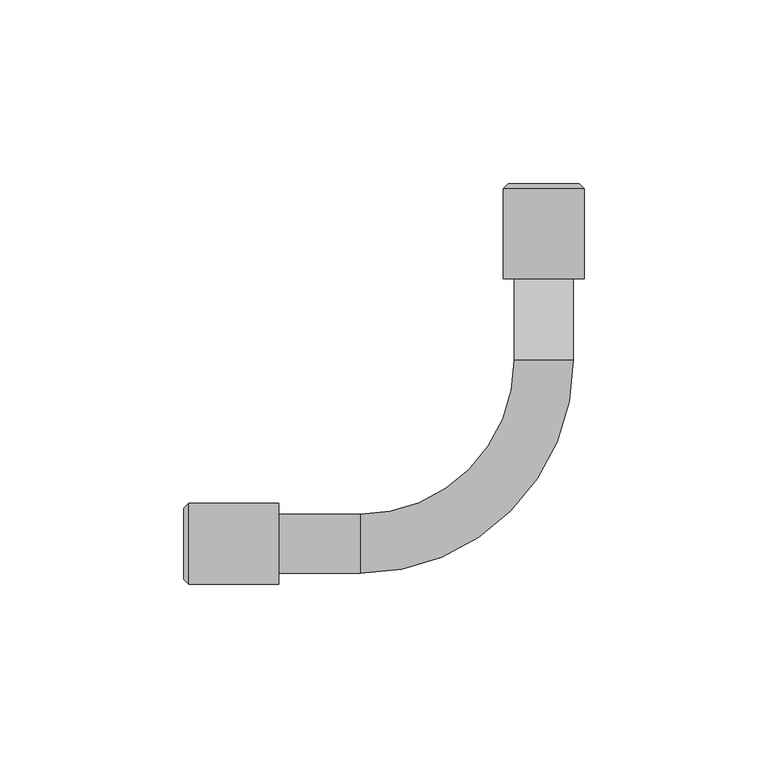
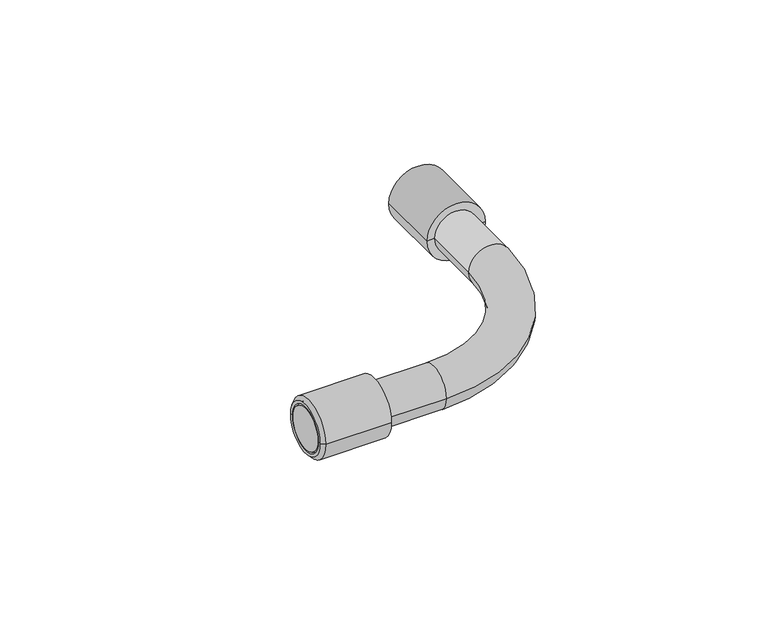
"""IFC4 building model written with IfcOpenShell, lengths in millimetres: cable carrier fitting geometry, ADSK_Поворот : Металл."""

from ifc_helpers import new_model, si_unit, point, frame, origin, place, context, project, spatial, polyline, circle_curve, ellipse_curve, trimmed, source, transform, mapped, element, save
from ifc_brep_helpers import plane_surface, cylinder_surface, revolved_surface, advanced_brep


def cable_carrier_fitting_90a67864(model_context):
    return source(origin(), model_context, "Body", "AdvancedBrep", [
        advanced_brep(
        [(-98.0, 8.0, 0.0), (-98.0, -8.0, 0.0), (-50.0, -8.0, 0.0), (-50.0, 8.0, 0.0), (-72.1831816, 8.0, 0.0), (-72.1831816, -8.0, 0.0), (8.0, 50.0, 0.0), (-8.0, 50.0, 0.0), (8.0, 98.0, 0.0), (-8.0, 98.0, 0.0), (8.0, 72.1831816, 0.0), (-8.0, 72.1831816, 0.0), (-96.1402564, 8.6768913, 0.0), (-96.1402564, -8.6768913, 0.0), (-72.1831816, -11.0, 0.0), (-72.1831816, 11.0, 0.0), (-96.6698709, -11.0, 0.0), (-96.6698709, 11.0, 0.0), (-98.0, -9.6698709, 0.0), (-98.0, 9.6698709, 0.0), (-98.0, -8.6768913, 0.0), (-98.0, 8.6768913, 0.0), (-11.0, 96.6698709, 0.0), (11.0, 96.6698709, 0.0), (11.0, 72.1831816, 0.0), (-11.0, 72.1831816, 0.0), (-9.6698709, 98.0, 0.0), (9.6698709, 98.0, 0.0), (-8.6768913, 98.0, 0.0), (8.6768913, 98.0, 0.0), (-8.6768913, 96.1402564, 0.0), (8.6768913, 96.1402564, 0.0)],
        [
            (0, 1, circle_curve(frame((-98.0, 0.0, 0.0), z_axis=(-1.0, 0.0, 0.0), x_axis=(0.0, 1.0, 0.0)), 8.0)),
            (1, 0, circle_curve(frame((-98.0, 0.0, 0.0), z_axis=(-1.0, 0.0, 0.0), x_axis=(0.0, 1.0, 0.0)), 8.0)),
            (2, 3, circle_curve(frame((-50.0, 0.0, 0.0), z_axis=(-1.0, 0.0, 0.0), x_axis=(0.0, 1.0, 0.0)), 8.0)),
            (3, 4),
            (4, 5, circle_curve(frame((-72.1831816, 0.0, 0.0), z_axis=(1.0, 0.0, 0.0), x_axis=(0.0, 1.0, 0.0)), 8.0)),
            (5, 2),
            (3, 2, circle_curve(frame((-50.0, 0.0, 0.0), z_axis=(-1.0, 0.0, 0.0), x_axis=(0.0, 1.0, 0.0)), 8.0)),
            (5, 4, circle_curve(frame((-72.1831816, 0.0, 0.0), z_axis=(1.0, 0.0, 0.0), x_axis=(0.0, 1.0, 0.0)), 8.0)),
            (2, 6, circle_curve(frame((-50.0, 50.0, 0.0), z_axis=(0.0, 0.0, 1.0), x_axis=(0.0, -1.0, 0.0)), 58.0)),
            (6, 7, circle_curve(frame((0.0, 50.0, 0.0), z_axis=(0.0, -1.0, 0.0), x_axis=(-1.0, 0.0, 0.0)), 8.0)),
            (7, 3, circle_curve(frame((-50.0, 50.0, 0.0), z_axis=(0.0, 0.0, -1.0), x_axis=(0.0, -1.0, 0.0)), 42.0)),
            (7, 6, circle_curve(frame((0.0, 50.0, 0.0), z_axis=(0.0, -1.0, 0.0), x_axis=(-1.0, 0.0, 0.0)), 8.0)),
            (8, 9, circle_curve(frame((0.0, 98.0, 0.0), z_axis=(0.0, 1.0, 0.0), x_axis=(1.0, 0.0, 0.0)), 8.0)),
            (9, 8, circle_curve(frame((0.0, 98.0, 0.0), z_axis=(0.0, 1.0, 0.0), x_axis=(1.0, 0.0, 0.0)), 8.0)),
            (6, 10),
            (10, 11, circle_curve(frame((0.0, 72.1831816, 0.0), z_axis=(0.0, -1.0, 0.0), x_axis=(-1.0, 0.0, 0.0)), 8.0)),
            (11, 7),
            (11, 10, circle_curve(frame((0.0, 72.1831816, 0.0), z_axis=(0.0, -1.0, 0.0), x_axis=(-1.0, 0.0, 0.0)), 8.0)),
            (0, 12),
            (12, 13, circle_curve(frame((-96.1402564, 0.0, 0.0), z_axis=(-1.0, 0.0, 0.0), x_axis=(0.0, 1.0, 0.0)), 8.6768913)),
            (13, 1),
            (13, 12, circle_curve(frame((-96.1402564, 0.0, 0.0), z_axis=(-1.0, 0.0, 0.0), x_axis=(0.0, 1.0, 0.0)), 8.6768913)),
            (14, 15, circle_curve(frame((-72.1831816, 0.0, 0.0), z_axis=(1.0, 0.0, 0.0), x_axis=(0.0, 1.0, 0.0)), 11.0)),
            (15, 4),
            (5, 14),
            (15, 14, circle_curve(frame((-72.1831816, 0.0, 0.0), z_axis=(1.0, 0.0, 0.0), x_axis=(0.0, 1.0, 0.0)), 11.0)),
            (14, 16),
            (16, 17, circle_curve(frame((-96.6698709, 0.0, 0.0), z_axis=(1.0, 0.0, 0.0), x_axis=(0.0, 1.0, 0.0)), 11.0)),
            (17, 15),
            (17, 16, circle_curve(frame((-96.6698709, 0.0, 0.0), z_axis=(1.0, 0.0, 0.0), x_axis=(0.0, 1.0, 0.0)), 11.0)),
            (16, 18),
            (18, 19, circle_curve(frame((-98.0, 0.0, 0.0), z_axis=(1.0, 0.0, 0.0), x_axis=(0.0, 1.0, 0.0)), 9.6698709)),
            (19, 17),
            (19, 18, circle_curve(frame((-98.0, 0.0, 0.0), z_axis=(1.0, 0.0, 0.0), x_axis=(0.0, 1.0, 0.0)), 9.6698709)),
            (18, 20),
            (20, 21, circle_curve(frame((-98.0, 0.0, 0.0), z_axis=(1.0, 0.0, 0.0), x_axis=(0.0, 1.0, 0.0)), 8.6768913)),
            (21, 19),
            (21, 20, circle_curve(frame((-98.0, 0.0, 0.0), z_axis=(1.0, 0.0, 0.0), x_axis=(0.0, 1.0, 0.0)), 8.6768913)),
            (12, 21),
            (20, 13),
            (22, 23, circle_curve(frame((0.0, 96.6698709, 0.0), z_axis=(0.0, -1.0, 0.0), x_axis=(1.0, 0.0, 0.0)), 11.0)),
            (23, 24),
            (24, 25, circle_curve(frame((0.0, 72.1831816, 0.0), z_axis=(0.0, 1.0, 0.0), x_axis=(1.0, 0.0, 0.0)), 11.0)),
            (25, 22),
            (23, 22, circle_curve(frame((0.0, 96.6698709, 0.0), z_axis=(0.0, -1.0, 0.0), x_axis=(1.0, 0.0, 0.0)), 11.0)),
            (25, 24, circle_curve(frame((0.0, 72.1831816, 0.0), z_axis=(0.0, 1.0, 0.0), x_axis=(1.0, 0.0, 0.0)), 11.0)),
            (22, 26),
            (26, 27, circle_curve(frame((0.0, 98.0, 0.0), z_axis=(0.0, -1.0, 0.0), x_axis=(1.0, 0.0, 0.0)), 9.6698709)),
            (27, 23),
            (27, 26, circle_curve(frame((0.0, 98.0, 0.0), z_axis=(0.0, -1.0, 0.0), x_axis=(1.0, 0.0, 0.0)), 9.6698709)),
            (26, 28),
            (28, 29, circle_curve(frame((0.0, 98.0, 0.0), z_axis=(0.0, -1.0, 0.0), x_axis=(1.0, 0.0, 0.0)), 8.6768913)),
            (29, 27),
            (29, 28, circle_curve(frame((0.0, 98.0, 0.0), z_axis=(0.0, -1.0, 0.0), x_axis=(1.0, 0.0, 0.0)), 8.6768913)),
            (28, 30),
            (30, 31, circle_curve(frame((0.0, 96.1402564, 0.0), z_axis=(0.0, -1.0, 0.0), x_axis=(1.0, 0.0, 0.0)), 8.6768913)),
            (31, 29),
            (31, 30, circle_curve(frame((0.0, 96.1402564, 0.0), z_axis=(0.0, -1.0, 0.0), x_axis=(1.0, 0.0, 0.0)), 8.6768913)),
            (30, 9),
            (8, 31),
            (24, 10),
            (11, 25),
        ],
        [
            plane_surface(frame((-98.0, 0.0, 0.0), z_axis=(-1.0, 0.0, 0.0), x_axis=(0.0, 0.0, 1.0))),
            cylinder_surface(frame((-98.0, 0.0, 0.0), z_axis=(-1.0, 0.0, 0.0), x_axis=(0.0, 1.0, 0.0)), 8.0),
            revolved_surface(trimmed(ellipse_curve(frame((-50.0, 0.0, 0.0), z_axis=(-1.0, 0.0, 0.0), x_axis=(0.0, 1.0, 0.0)), 8.0, 8.0), [point((-50.0, -8.0, 0.0))], [point((-50.0, 8.0, 0.0))], True, "CARTESIAN"), (-50.0, 50.0, 0.0), (0.0, 0.0, 1.0)),
            revolved_surface(trimmed(ellipse_curve(frame((-50.0, 0.0, 0.0), z_axis=(-1.0, 0.0, 0.0), x_axis=(0.0, 1.0, 0.0)), 8.0, 8.0), [point((-50.0, 8.0, 0.0))], [point((-50.0, -8.0, 0.0))], True, "CARTESIAN"), (-50.0, 50.0, 0.0), (0.0, 0.0, 1.0)),
            plane_surface(frame((0.0, 98.0, 0.0), z_axis=(0.0, 1.0, 0.0), x_axis=(0.0, 0.0, 1.0))),
            cylinder_surface(frame((0.0, 50.0, 0.0), z_axis=(0.0, -1.0, 0.0), x_axis=(-1.0, 0.0, 0.0)), 8.0),
            revolved_surface(polyline([(-96.1402564, 8.6768913, 0.0), (-98.0, 8.0, 0.0)]), (-98.0, 0.0, 0.0), (-1.0, 0.0, 0.0)),
            plane_surface(frame((-72.1831816, 0.0, 0.0), z_axis=(1.0, 0.0, 0.0), x_axis=(0.0, 1.0, 0.0))),
            cylinder_surface(frame((-98.0, 0.0, 0.0), z_axis=(-1.0, 0.0, 0.0), x_axis=(0.0, 1.0, 0.0)), 11.0),
            revolved_surface(polyline([(-96.6698709, 11.0, 0.0), (-98.0, 9.6698709, 0.0)]), (-98.0, 0.0, 0.0), (-1.0, 0.0, 0.0)),
            plane_surface(frame((-98.0, 0.0, 0.0), z_axis=(-1.0, 0.0, 0.0), x_axis=(0.0, 1.0, 0.0))),
            revolved_surface(polyline([(-98.0, 8.6768913, 0.0), (-96.1402564, 8.6768913, 0.0)]), (-98.0, 0.0, 0.0), (-1.0, 0.0, 0.0)),
            cylinder_surface(frame((0.0, 117.0, 0.0), z_axis=(0.0, 1.0, 0.0), x_axis=(1.0, 0.0, 0.0)), 11.0),
            revolved_surface(polyline([(11.0, 96.6698709, 0.0), (9.6698709, 98.0, 0.0)]), (0.0, 117.0, 0.0), (0.0, 1.0, 0.0)),
            plane_surface(frame((0.0, 98.0, 0.0), z_axis=(0.0, 1.0, 0.0), x_axis=(1.0, 0.0, 0.0))),
            revolved_surface(polyline([(8.6768913, 98.0, 0.0), (8.6768913, 96.1402564, 0.0)]), (0.0, 117.0, 0.0), (0.0, 1.0, 0.0)),
            revolved_surface(polyline([(8.6768913, 96.1402564, 0.0), (8.0, 98.0, 0.0)]), (0.0, 117.0, 0.0), (0.0, 1.0, 0.0)),
            plane_surface(frame((0.0, 72.1831816, 0.0), z_axis=(0.0, -1.0, 0.0), x_axis=(1.0, 0.0, 0.0))),
        ],
        [
            (0, [[1, 2]]),
            (1, [[3, 4, 5, 6]]),
            (1, [[7, -6, 8, -4]]),
            (2, [[-3, 9, 10, 11]]),
            (3, [[-7, -11, 12, -9]]),
            (4, [[13, 14]]),
            (5, [[-10, 15, 16, 17]]),
            (5, [[-12, -17, 18, -15]]),
            (6, [[19, 20, 21, -1]]),
            (6, [[-19, -2, -21, 22]]),
            (7, [[23, 24, -8, 25]]),
            (7, [[-24, 26, -25, -5]]),
            (8, [[-23, 27, 28, 29]]),
            (8, [[-26, -29, 30, -27]]),
            (9, [[-28, 31, 32, 33]]),
            (9, [[-30, -33, 34, -31]]),
            (10, [[-32, 35, 36, 37]]),
            (10, [[-34, -37, 38, -35]]),
            (11, [[-20, 39, -36, 40]]),
            (11, [[-22, -40, -38, -39]]),
            (12, [[41, 42, 43, 44]]),
            (12, [[-42, 45, -44, 46]]),
            (13, [[-41, 47, 48, 49]]),
            (13, [[-45, -49, 50, -47]]),
            (14, [[-48, 51, 52, 53]]),
            (14, [[-50, -53, 54, -51]]),
            (15, [[-52, 55, 56, 57]]),
            (15, [[-54, -57, 58, -55]]),
            (16, [[-56, 59, -13, 60]]),
            (16, [[-58, -60, -14, -59]]),
            (17, [[-43, 61, -18, 62]]),
            (17, [[-46, -62, -16, -61]]),
        ],
    ),
    ])


if __name__ == "__main__":
    model = new_model("IFC4")
    model_context = context("Model", 3, world=origin())
    ifc_project = project(units=[si_unit("LENGTHUNIT", "METRE", prefix="MILLI")], contexts=[model_context])
    site = spatial("IfcSite", under=ifc_project)
    building = spatial("IfcBuilding", under=site)
    placement = place(None, origin())
    cable_carrier_fitting_shape = cable_carrier_fitting_90a67864(model_context)
    element("IfcCableCarrierFitting", 1, ObjectType="ADSK_Поворот : Металл", at=placement, inside=building, context=model_context, shape_type="MappedRepresentation", body=[
        mapped(cable_carrier_fitting_shape, transform((0.0, 0.0, 0.0), x_axis=(1.0, 0.0, 0.0), y_axis=(0.0, 1.0, 0.0), z_axis=(0.0, 0.0, 1.0))),
    ])
    save(model, "model.ifc")
